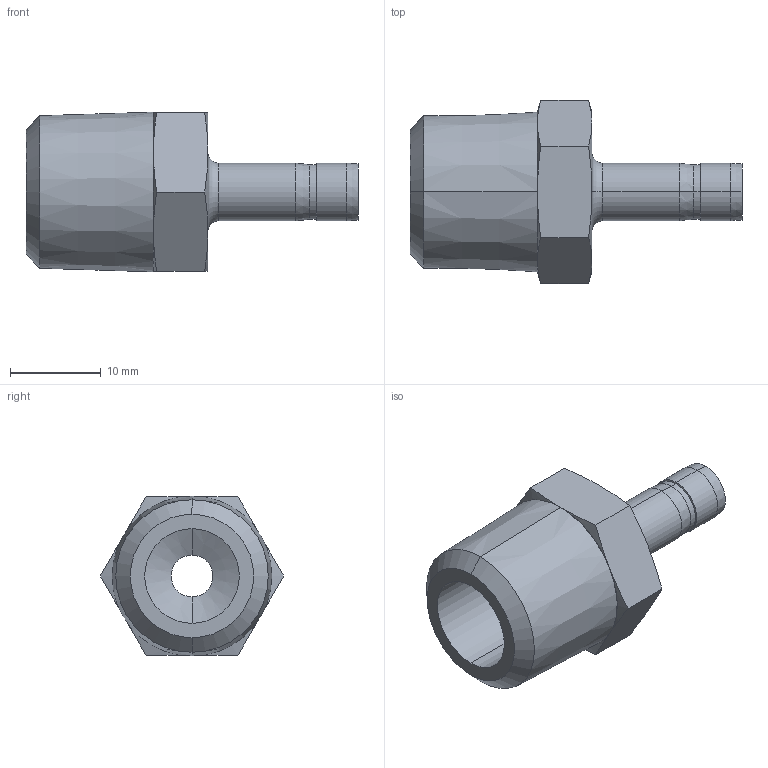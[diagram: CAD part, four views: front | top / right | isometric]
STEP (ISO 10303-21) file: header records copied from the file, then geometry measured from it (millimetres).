
FILE_DESCRIPTION (( 'STEP AP203' ), '1' );
FILE_NAME ('DHA04-06 SS.STEP', '2009-09-08T06:14:38', ( ' ' ), ( '' ), 'SwSTEP 2.0', 'SolidWorks 2008', '' );
FILE_SCHEMA (( 'CONFIG_CONTROL_DESIGN' ));
Length unit declared in the file: millimetre
Products named in the file (1): DHA04-06 SS
Bounding box: 36.5 x 20.16 x 17.55 mm (x, y, z)
Volume: 3593.2 mm3; surface area: 2637.5 mm2
Topology: 1 solids, 1 shells, 46 faces, 96 edges, 54 vertices
Faces by surface type: cone 24, cylinder 10, plane 10, torus 2
Entity records: 1349 total; most frequent: CARTESIAN_POINT 309, DIRECTION 210, ORIENTED_EDGE 192, EDGE_CURVE 96, AXIS2_PLACEMENT_3D 91, VERTEX_POINT 54, EDGE_LOOP 50, ADVANCED_FACE 46
